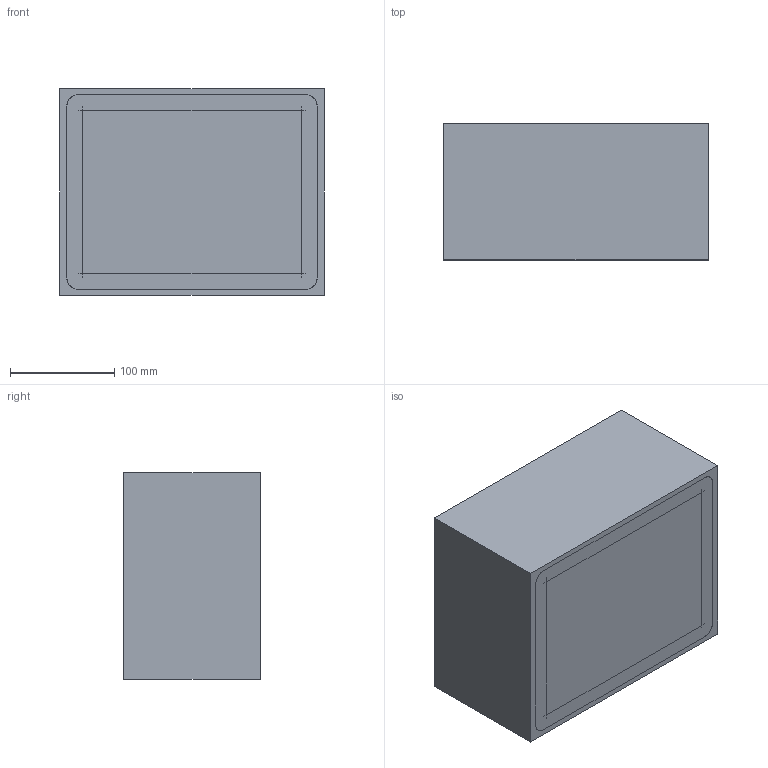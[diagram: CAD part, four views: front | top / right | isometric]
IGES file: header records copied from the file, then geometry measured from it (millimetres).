
Start section: SolidWorks IGES file using analytic representation for surfaces
Global section: file name: C:\working\1300 internet files\1300-CASE-BOT.IGS; native system: SolidWorks 2005 by SolidWorks Corporation; preprocessor: SolidWorks 2005 by SolidWorks Corporation; author: engineer; date: 060209.084506; units: inch
Bounding box: 254 x 130.81 x 198.12 mm (x, y, z)
Surface area: 403217.2 mm2 (no closed solid volume)
Topology: 0 solids, 0 shells, 108 faces, 1234 edges, 1234 vertices
Faces by surface type: bspline 56, revolution 52
